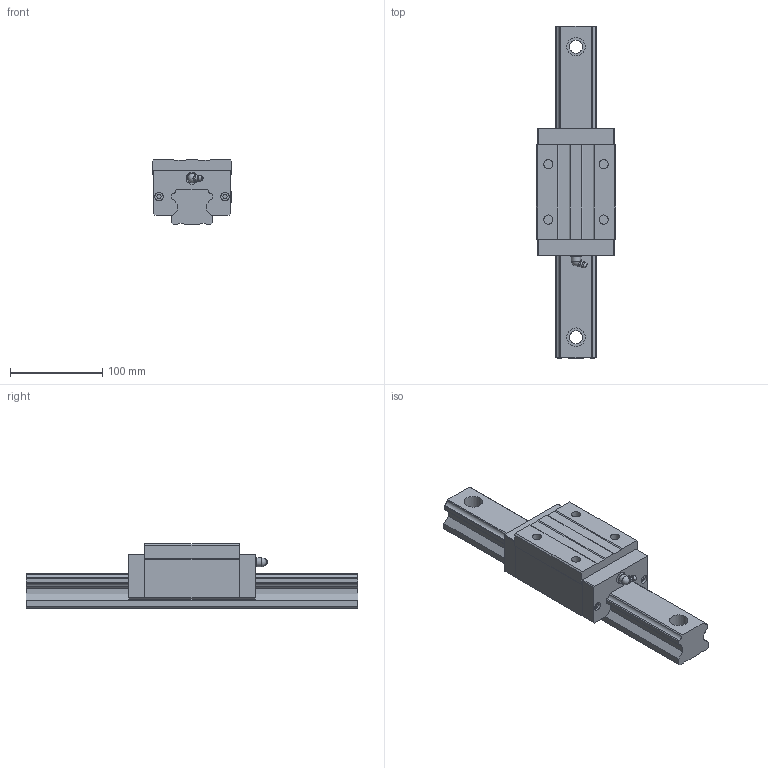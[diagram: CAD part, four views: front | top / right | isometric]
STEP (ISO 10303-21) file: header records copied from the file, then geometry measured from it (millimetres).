
FILE_DESCRIPTION(/* description */ (''),/* implementation_level */ '2;1');
FILE_NAME(/* name */ 'MSA45S',/* time_stamp */ '2003-12-29T10:59:15+08:00',/* author */ (''),/* organization */ (''),/* preprocessor_version */ 'ST-DEVELOPER v9',/* originating_system */ '',/* authorisation */ '');
FILE_SCHEMA (('CONFIG_CONTROL_DESIGN'));
Length unit declared in the file: millimetre
Products named in the file (1): zirc5932mwa1
Bounding box: 86 x 360 x 70 mm (x, y, z)
Volume: 1007897.3 mm3; surface area: 130605.4 mm2
Topology: 3 solids, 3 shells, 172 faces, 435 edges, 287 vertices
Faces by surface type: plane 130, cylinder 31, torus 7, sphere 2, cone 1, bspline 1
Full cylindrical faces by diameter (mm): 4.5 x4, 9 x4, 10 x5, 13 x2, 14 x4, 20 x4
Entity records: 5198 total; most frequent: CARTESIAN_POINT 1046, ORIENTED_EDGE 810, DIRECTION 807, EDGE_CURVE 405, LINE 301, VECTOR 301, VERTEX_POINT 284, AXIS2_PLACEMENT_3D 253
